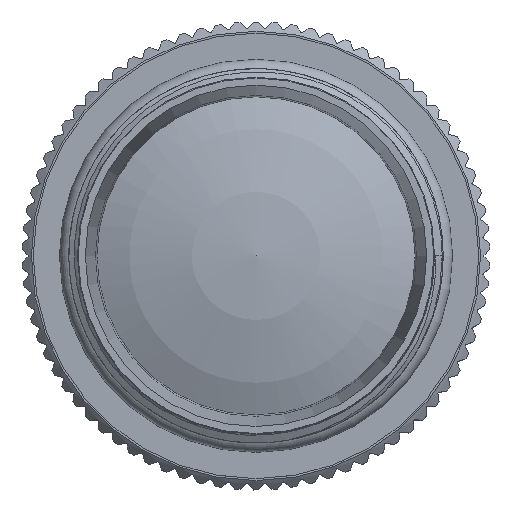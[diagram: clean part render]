
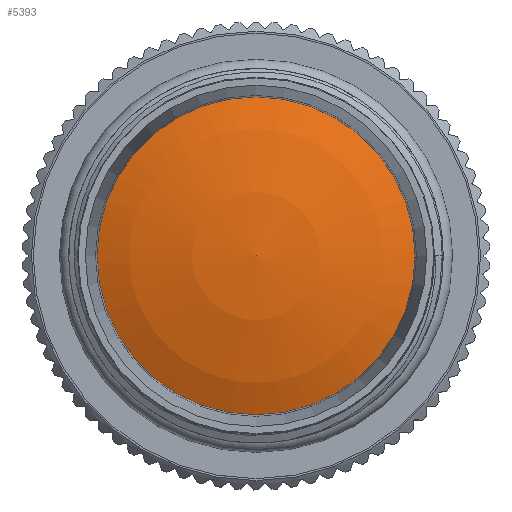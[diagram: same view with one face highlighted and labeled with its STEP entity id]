
A CAD part, top view. The second image highlights one B-rep face of the part: STEP entity #5393.
In plain terms, the highlighted spherical face has radius 24.78 mm.
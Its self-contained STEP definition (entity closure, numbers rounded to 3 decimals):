
#37=SPHERICAL_SURFACE('',#6486,24.78);
#360=FACE_OUTER_BOUND('',#2023,.T.);
#2023=EDGE_LOOP('',(#3979));
#3979=ORIENTED_EDGE('',*,*,#4957,.F.);
#4957=EDGE_CURVE('E99',#6115,#6115,#4983,.T.);
#4983=CIRCLE('',#6484,10.);
#5393=ADVANCED_FACE('F44',(#360),#37,.T.);
#6115=VERTEX_POINT('',#15562);
#6484=AXIS2_PLACEMENT_3D('',#15561,#7225,#7226);
#6486=AXIS2_PLACEMENT_3D('',#15564,#7229,#7230);
#7225=DIRECTION('',(0.,0.,-1.));
#7226=DIRECTION('',(-1.,0.,0.));
#7229=DIRECTION('',(0.,0.,-1.));
#7230=DIRECTION('',(0.,-1.,0.));
#15561=CARTESIAN_POINT('',(0.,0.,-1.8));
#15562=CARTESIAN_POINT('',(-10.,0.,-1.8));
#15564=CARTESIAN_POINT('',(0.,0.,
-24.473));
